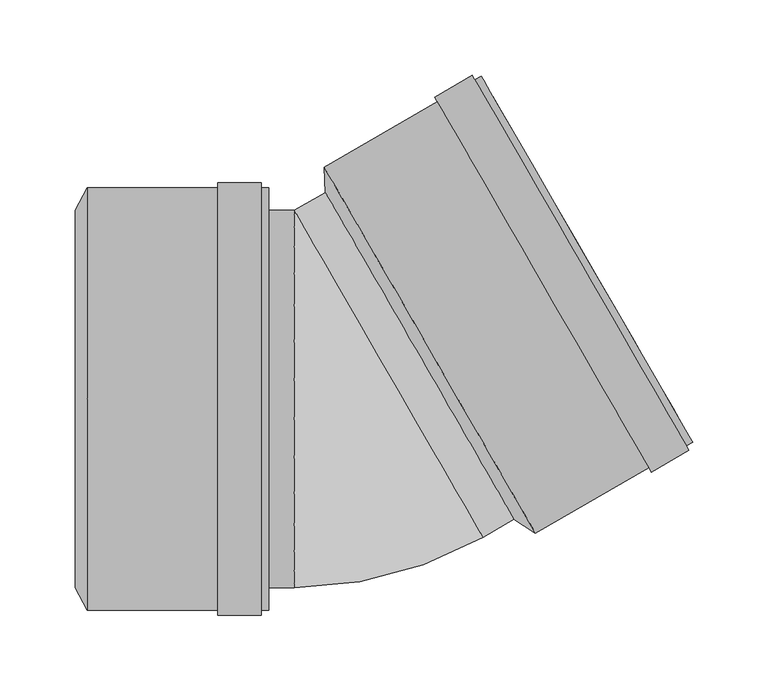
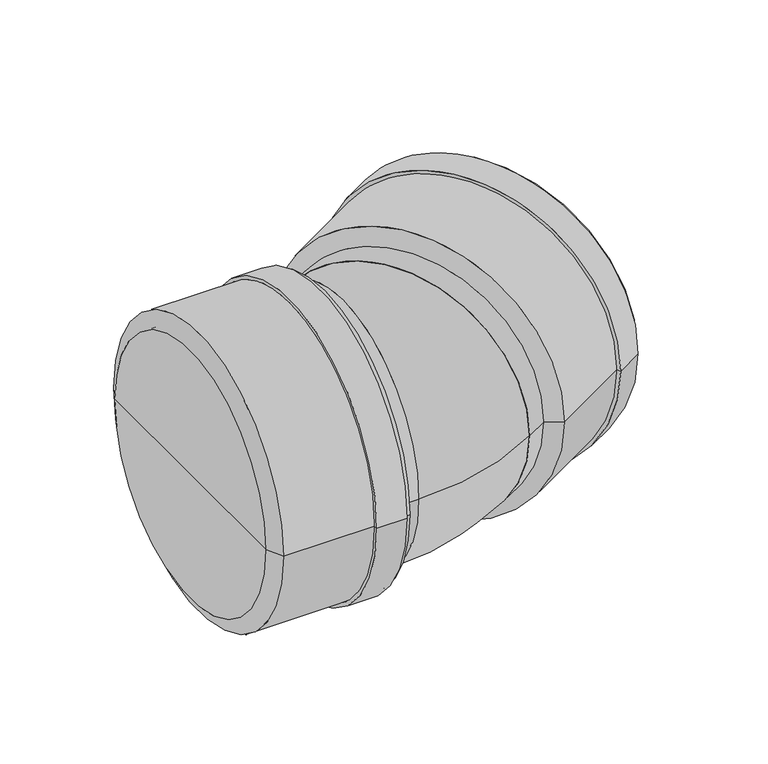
"""IFC4 building model written with IfcOpenShell, lengths in millimetres: pipe fitting geometry, pf_KGB : pf_KGB."""

from ifc_helpers import new_model, si_unit, point, frame, origin, origin_2d, place, context, project, spatial, polyline, circle_curve, ellipse_curve, trimmed, segment, composite_curve, outline, extrude, source, transform, mapped, element, save
from ifc_brep_helpers import plane_surface, cylinder_surface, revolved_surface, advanced_brep


def pipe_fitting_4585e259(model_context):
    return source(origin(), model_context, "Body", "SolidModel", [
        advanced_brep(
        [(112.0366531, -79.6531755, 0.0), (-12.9633469, 136.8531755, 0.0), (-13.8449513, 153.7801591, 0.0), (126.2550487, -88.8801591, 0.0), (49.5366531, 28.6, 0.0), (230.4379048, -28.7301591, 0.0), (90.3379048, 213.9301591, 0.0), (97.8879048, 200.8531755, 0.0), (222.8879048, -15.6531755, 0.0), (86.1809828, 211.5301591, 0.0), (226.2809828, -31.1301591, 0.0), (84.4809828, 214.4746454, 0.0), (227.9809828, -34.0746454, 0.0), (59.6260538, 200.1246454, 0.0), (203.1260538, -48.4246454, 0.0), (61.3260538, 197.1801591, 0.0), (201.4260538, -45.4801591, 0.0), (118.7050487, -75.8031755, 0.0), (-6.2949513, 140.7031755, 0.0), (56.2050487, 32.45, 0.0)],
        [
            (0, 1, circle_curve(frame((49.5366531, 28.6, 0.0), z_axis=(0.8660254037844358, 0.500000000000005, 0.0), x_axis=(-0.500000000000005, 0.8660254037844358, 0.0)), 125.0)),
            (1, 2),
            (2, 3, circle_curve(frame((56.2050487, 32.45, 0.0), z_axis=(-0.8660254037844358, -0.500000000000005, 0.0), x_axis=(-0.500000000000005, 0.8660254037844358, 0.0)), 140.1)),
            (3, 0),
            (1, 0, circle_curve(frame((49.5366531, 28.6, 0.0), z_axis=(0.8660254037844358, 0.500000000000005, 0.0), x_axis=(-0.500000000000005, 0.8660254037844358, 0.0)), 125.0)),
            (3, 2, circle_curve(frame((56.2050487, 32.45, 0.0), z_axis=(-0.8660254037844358, -0.500000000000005, 0.0), x_axis=(-0.500000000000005, 0.8660254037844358, 0.0)), 140.1)),
            (4, 1),
            (0, 4),
            (5, 6, circle_curve(frame((160.3879048, 92.6, 0.0), z_axis=(0.8660254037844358, 0.500000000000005, 0.0), x_axis=(-0.500000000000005, 0.8660254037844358, 0.0)), 140.1)),
            (6, 7),
            (7, 8, circle_curve(frame((160.3879048, 92.6, 0.0), z_axis=(-0.8660254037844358, -0.500000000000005, 0.0), x_axis=(-0.500000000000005, 0.8660254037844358, 0.0)), 125.0)),
            (8, 5),
            (9, 10, circle_curve(frame((156.2309828, 90.2, 0.0), z_axis=(0.8660254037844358, 0.500000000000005, 0.0), x_axis=(-0.500000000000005, 0.8660254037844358, 0.0)), 140.1)),
            (10, 5),
            (5, 6, circle_curve(frame((160.3879048, 92.6, 0.0), z_axis=(-0.8660254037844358, -0.500000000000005, 0.0), x_axis=(-0.500000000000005, 0.8660254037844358, 0.0)), 140.1)),
            (6, 9),
            (11, 12, circle_curve(frame((156.2309828, 90.2, 0.0), z_axis=(0.8660254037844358, 0.500000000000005, 0.0), x_axis=(-0.500000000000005, 0.8660254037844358, 0.0)), 143.5)),
            (12, 10),
            (9, 11),
            (13, 14, circle_curve(frame((131.3760538, 75.85, 0.0), z_axis=(0.8660254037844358, 0.500000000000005, 0.0), x_axis=(-0.500000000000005, 0.8660254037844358, 0.0)), 143.5)),
            (14, 12),
            (11, 13),
            (15, 16, circle_curve(frame((131.3760538, 75.85, 0.0), z_axis=(0.8660254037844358, 0.500000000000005, 0.0), x_axis=(-0.500000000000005, 0.8660254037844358, 0.0)), 140.1)),
            (16, 14),
            (13, 15),
            (8, 7, circle_curve(frame((160.3879048, 92.6, 0.0), z_axis=(-0.8660254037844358, -0.500000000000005, 0.0), x_axis=(-0.500000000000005, 0.8660254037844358, 0.0)), 125.0)),
            (10, 9, circle_curve(frame((156.2309828, 90.2, 0.0), z_axis=(0.8660254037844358, 0.500000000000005, 0.0), x_axis=(-0.500000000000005, 0.8660254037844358, 0.0)), 140.1)),
            (12, 11, circle_curve(frame((156.2309828, 90.2, 0.0), z_axis=(0.8660254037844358, 0.500000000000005, 0.0), x_axis=(-0.500000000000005, 0.8660254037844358, 0.0)), 143.5)),
            (14, 13, circle_curve(frame((131.3760538, 75.85, 0.0), z_axis=(0.8660254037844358, 0.500000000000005, 0.0), x_axis=(-0.500000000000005, 0.8660254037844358, 0.0)), 143.5)),
            (16, 15, circle_curve(frame((131.3760538, 75.85, 0.0), z_axis=(0.8660254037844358, 0.500000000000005, 0.0), x_axis=(-0.500000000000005, 0.8660254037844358, 0.0)), 140.1)),
            (2, 15),
            (16, 3),
            (17, 18, circle_curve(frame((56.2050487, 32.45, 0.0), z_axis=(0.8660254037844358, 0.500000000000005, 0.0), x_axis=(-0.500000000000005, 0.8660254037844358, 0.0)), 125.0)),
            (18, 19),
            (19, 17),
            (18, 17, circle_curve(frame((56.2050487, 32.45, 0.0), z_axis=(0.8660254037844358, 0.500000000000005, 0.0), x_axis=(-0.500000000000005, 0.8660254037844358, 0.0)), 125.0)),
            (7, 18),
            (17, 8),
        ],
        [
            revolved_surface(polyline([(-13.8449513, 153.7801591, 0.0), (-12.9633469, 136.8531755, 0.0)]), (49.5366531, 28.6, 0.0), (-0.8660254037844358, -0.500000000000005, 0.0)),
            plane_surface(frame((49.5366531, 28.6, 0.0), z_axis=(-0.8660254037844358, -0.500000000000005, 0.0), x_axis=(-0.500000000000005, 0.8660254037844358, 0.0))),
            plane_surface(frame((160.3879048, 92.6, 0.0), z_axis=(0.8660254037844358, 0.500000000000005, 0.0), x_axis=(-0.500000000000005, 0.8660254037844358, 0.0))),
            cylinder_surface(frame((49.5366531, 28.6, 0.0), z_axis=(-0.8660254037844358, -0.500000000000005, 0.0), x_axis=(-0.500000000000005, 0.8660254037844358, 0.0)), 140.1),
            plane_surface(frame((156.2309828, 90.2, 0.0), z_axis=(0.8660254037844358, 0.500000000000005, 0.0), x_axis=(-0.500000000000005, 0.8660254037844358, 0.0))),
            cylinder_surface(frame((49.5366531, 28.6, 0.0), z_axis=(-0.8660254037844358, -0.500000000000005, 0.0), x_axis=(-0.500000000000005, 0.8660254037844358, 0.0)), 143.5),
            plane_surface(frame((131.3760538, 75.85, 0.0), z_axis=(-0.8660254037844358, -0.500000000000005, 0.0), x_axis=(-0.500000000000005, 0.8660254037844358, 0.0))),
            plane_surface(frame((56.2050487, 32.45, 0.0), z_axis=(0.8660254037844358, 0.500000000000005, 0.0), x_axis=(-0.500000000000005, 0.8660254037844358, 0.0))),
            revolved_surface(polyline([(-6.294951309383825, 140.70317546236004, 0.0), (97.88790480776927, 200.85317548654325, 0.0)]), (49.5366531, 28.6, 0.0), (-0.8660254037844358, -0.500000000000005, 0.0)),
        ],
        [
            (0, [[1, 2, 3, 4]]),
            (0, [[5, -4, 6, -2]]),
            (1, [[7, -1, 8]]),
            (1, [[-8, -5, -7]]),
            (2, [[9, 10, 11, 12]]),
            (3, [[13, 14, 15, 16]]),
            (4, [[17, 18, -13, 19]]),
            (5, [[20, 21, -17, 22]]),
            (6, [[23, 24, -20, 25]]),
            (2, [[-15, -12, 26, -10]]),
            (3, [[27, -16, -9, -14]]),
            (4, [[28, -19, -27, -18]]),
            (5, [[29, -22, -28, -21]]),
            (6, [[30, -25, -29, -24]]),
            (3, [[-3, 31, -30, 32]]),
            (3, [[-6, -32, -23, -31]]),
            (7, [[33, 34, 35]]),
            (7, [[36, -35, -34]]),
            (8, [[-11, 37, -33, 38]]),
            (8, [[-26, -38, -36, -37]]),
        ],
    ),
        advanced_brep(
        [(-178.7, -125.0, 0.0), (-178.7, 125.0, 0.0), (-171.0, 140.1, 0.0), (-171.0, -140.1, 0.0), (-178.7, 0.0, 0.0), (-50.7, -140.1, 0.0), (-50.7, 140.1, 0.0), (-50.7, 125.0, 0.0), (-50.7, -125.0, 0.0), (-55.5, 140.1, 0.0), (-55.5, -140.1, 0.0), (-55.5, 143.5, 0.0), (-55.5, -143.5, 0.0), (-84.2, 143.5, 0.0), (-84.2, -143.5, 0.0), (-84.2, 140.1, 0.0), (-84.2, -140.1, 0.0), (-171.0, -125.0, 0.0), (-171.0, 125.0, 0.0), (-171.0, 0.0, 0.0)],
        [
            (0, 1, circle_curve(frame((-178.7, 0.0, 0.0), z_axis=(1.0, 0.0, 0.0), x_axis=(0.0, 1.0, 0.0)), 125.0)),
            (1, 2),
            (2, 3, circle_curve(frame((-171.0, 0.0, 0.0), z_axis=(-1.0, 0.0, 0.0), x_axis=(0.0, 1.0, 0.0)), 140.1)),
            (3, 0),
            (1, 0, circle_curve(frame((-178.7, 0.0, 0.0), z_axis=(1.0, 0.0, 0.0), x_axis=(0.0, 1.0, 0.0)), 125.0)),
            (3, 2, circle_curve(frame((-171.0, 0.0, 0.0), z_axis=(-1.0, 0.0, 0.0), x_axis=(0.0, 1.0, 0.0)), 140.1)),
            (4, 1),
            (0, 4),
            (5, 6, circle_curve(frame((-50.7, 0.0, 0.0), z_axis=(1.0, 0.0, 0.0), x_axis=(0.0, 1.0, 0.0)), 140.1)),
            (6, 7),
            (7, 8, circle_curve(frame((-50.7, 0.0, 0.0), z_axis=(-1.0, 0.0, 0.0), x_axis=(0.0, 1.0, 0.0)), 125.0)),
            (8, 5),
            (9, 10, circle_curve(frame((-55.5, 0.0, 0.0), z_axis=(1.0, 0.0, 0.0), x_axis=(0.0, 1.0, 0.0)), 140.1)),
            (10, 5),
            (5, 6, circle_curve(frame((-50.7, 0.0, 0.0), z_axis=(-1.0, 0.0, 0.0), x_axis=(0.0, 1.0, 0.0)), 140.1)),
            (6, 9),
            (11, 12, circle_curve(frame((-55.5, 0.0, 0.0), z_axis=(1.0, 0.0, 0.0), x_axis=(0.0, 1.0, 0.0)), 143.5)),
            (12, 10),
            (9, 11),
            (13, 14, circle_curve(frame((-84.2, 0.0, 0.0), z_axis=(1.0, 0.0, 0.0), x_axis=(0.0, 1.0, 0.0)), 143.5)),
            (14, 12),
            (11, 13),
            (15, 16, circle_curve(frame((-84.2, 0.0, 0.0), z_axis=(1.0, 0.0, 0.0), x_axis=(0.0, 1.0, 0.0)), 140.1)),
            (16, 14),
            (13, 15),
            (8, 7, circle_curve(frame((-50.7, 0.0, 0.0), z_axis=(-1.0, 0.0, 0.0), x_axis=(0.0, 1.0, 0.0)), 125.0)),
            (10, 9, circle_curve(frame((-55.5, 0.0, 0.0), z_axis=(1.0, 0.0, 0.0), x_axis=(0.0, 1.0, 0.0)), 140.1)),
            (12, 11, circle_curve(frame((-55.5, 0.0, 0.0), z_axis=(1.0, 0.0, 0.0), x_axis=(0.0, 1.0, 0.0)), 143.5)),
            (14, 13, circle_curve(frame((-84.2, 0.0, 0.0), z_axis=(1.0, 0.0, 0.0), x_axis=(0.0, 1.0, 0.0)), 143.5)),
            (16, 15, circle_curve(frame((-84.2, 0.0, 0.0), z_axis=(1.0, 0.0, 0.0), x_axis=(0.0, 1.0, 0.0)), 140.1)),
            (2, 15),
            (16, 3),
            (17, 18, circle_curve(frame((-171.0, 0.0, 0.0), z_axis=(1.0, 0.0, 0.0), x_axis=(0.0, 1.0, 0.0)), 125.0)),
            (18, 19),
            (19, 17),
            (18, 17, circle_curve(frame((-171.0, 0.0, 0.0), z_axis=(1.0, 0.0, 0.0), x_axis=(0.0, 1.0, 0.0)), 125.0)),
            (7, 18),
            (17, 8),
        ],
        [
            revolved_surface(polyline([(-171.0, 140.1, 0.0), (-178.7, 125.0, 0.0)]), (-178.7, 0.0, 0.0), (-1.0, 0.0, 0.0)),
            plane_surface(frame((-178.7, 0.0, 0.0), z_axis=(-1.0, 0.0, 0.0), x_axis=(0.0, 1.0, 0.0))),
            plane_surface(frame((-50.7, 0.0, 0.0), z_axis=(1.0, 0.0, 0.0), x_axis=(0.0, 1.0, 0.0))),
            cylinder_surface(frame((-178.7, 0.0, 0.0), z_axis=(-1.0, 0.0, 0.0), x_axis=(0.0, 1.0, 0.0)), 140.1),
            plane_surface(frame((-55.5, 0.0, 0.0), z_axis=(1.0, 0.0, 0.0), x_axis=(0.0, 1.0, 0.0))),
            cylinder_surface(frame((-178.7, 0.0, 0.0), z_axis=(-1.0, 0.0, 0.0), x_axis=(0.0, 1.0, 0.0)), 143.5),
            plane_surface(frame((-84.2, 0.0, 0.0), z_axis=(-1.0, 0.0, 0.0), x_axis=(0.0, 1.0, 0.0))),
            plane_surface(frame((-171.0, 0.0, 0.0), z_axis=(1.0, 0.0, 0.0), x_axis=(0.0, 1.0, 0.0))),
            revolved_surface(polyline([(-171.0, 125.0, 0.0), (-50.7, 125.0, 0.0)]), (-178.7, 0.0, 0.0), (-1.0, 0.0, 0.0)),
        ],
        [
            (0, [[1, 2, 3, 4]]),
            (0, [[5, -4, 6, -2]]),
            (1, [[7, -1, 8]]),
            (1, [[-8, -5, -7]]),
            (2, [[9, 10, 11, 12]]),
            (3, [[13, 14, 15, 16]]),
            (4, [[17, 18, -13, 19]]),
            (5, [[20, 21, -17, 22]]),
            (6, [[23, 24, -20, 25]]),
            (2, [[-15, -12, 26, -10]]),
            (3, [[27, -16, -9, -14]]),
            (4, [[28, -19, -27, -18]]),
            (5, [[29, -22, -28, -21]]),
            (6, [[30, -25, -29, -24]]),
            (3, [[-3, 31, -30, 32]]),
            (3, [[-6, -32, -23, -31]]),
            (7, [[33, 34, 35]]),
            (7, [[36, -35, -34]]),
            (8, [[-11, 37, -33, 38]]),
            (8, [[-26, -38, -36, -37]]),
        ],
    ),
        extrude(outline(composite_curve([segment(trimmed(circle_curve(origin_2d(), 125.0), [point((0.0, -125.0))], [point((0.0, 124.9999999))], False, "CARTESIAN"), True, "CONTINUOUS"), segment(trimmed(circle_curve(origin_2d(), 125.0), [point((0.0, 124.9999999))], [point((0.0, -125.0))], False, "CARTESIAN"), True, "CONTINUOUS")], self_intersect=False)), frame((29.0063509, 16.7468245, 0.0), z_axis=(0.8660254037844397, 0.49999999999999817, 0.0), x_axis=(0.0, 0.0, 1.0)), (0.0, 0.0, 1.0), 23.7063509),
        extrude(outline(composite_curve([segment(trimmed(circle_curve(origin_2d(), 125.0), [point((-125.0, 0.0))], [point((125.0, 0.0))], False, "CARTESIAN"), True, "CONTINUOUS"), segment(trimmed(circle_curve(origin_2d(), 125.0), [point((125.0, 0.0))], [point((-125.0, 0.0))], False, "CARTESIAN"), True, "CONTINUOUS")], self_intersect=False)), frame((-171.0, 0.0, 0.0), z_axis=(1.0, 0.0, 0.0), x_axis=(0.0, 1.0, 0.0)), (0.0, 0.0, 1.0), 137.5063509),
        advanced_brep(
        [(-33.4936491, -125.0, 0.0), (-33.4936491, 125.0, 0.0), (91.5063509, -91.5063509, 0.0)],
        [
            (0, 1, circle_curve(frame((-33.4936491, 0.0, 0.0), z_axis=(-1.0, 0.0, 0.0), x_axis=(0.0, 1.0, 0.0)), 125.0)),
            (1, 0, circle_curve(frame((-33.4936491, 0.0, 0.0), z_axis=(-1.0, 0.0, 0.0), x_axis=(0.0, 1.0, 0.0)), 125.0)),
            (2, 1, circle_curve(frame((29.0063509, 16.7468245, 0.0), z_axis=(0.8660254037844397, 0.49999999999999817, 0.0), x_axis=(-0.49999999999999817, 0.8660254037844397, 0.0)), 125.0)),
            (1, 2, circle_curve(frame((29.0063509, 16.7468245, 0.0), z_axis=(0.8660254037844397, 0.49999999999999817, 0.0), x_axis=(-0.49999999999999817, 0.8660254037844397, 0.0)), 125.0)),
            (2, 0, circle_curve(frame((-33.4936491, 125.0, 0.0), z_axis=(0.0, 0.0, -1.0), x_axis=(0.0, -1.0, 0.0)), 250.0)),
        ],
        [
            plane_surface(frame((-33.4936491, 125.0, -14.8), z_axis=(-1.0, 0.0, 0.0), x_axis=(0.0, -1.0, 0.0))),
            plane_surface(frame((-33.4936491, 125.0, -14.8), z_axis=(0.8660254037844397, 0.4999999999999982, 0.0), x_axis=(0.4999999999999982, -0.8660254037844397, 0.0))),
            revolved_surface(trimmed(ellipse_curve(frame((-33.4936491, 0.0, 0.0), z_axis=(1.0, 0.0, 0.0), x_axis=(0.0, 1.0, 0.0)), 125.0, 125.0), [point((-33.4936491, -125.0, 0.0))], [point((-33.4936491, 125.0, 0.0))], True, "CARTESIAN"), (-33.4936491, 125.0, -14.8), (0.0, 0.0, -1.0)),
            revolved_surface(trimmed(ellipse_curve(frame((-33.4936491, 0.0, 0.0), z_axis=(1.0, 0.0, 0.0), x_axis=(0.0, 1.0, 0.0)), 125.0, 125.0), [point((-33.4936491, 125.0, 0.0))], [point((-33.4936491, -125.0, 0.0))], True, "CARTESIAN"), (-33.4936491, 125.0, -14.8), (0.0, 0.0, -1.0)),
        ],
        [
            (0, [[1, 2]]),
            (1, [[3, 4]]),
            (2, [[5, -2, -3]]),
            (3, [[-1, -5, -4]]),
        ],
    ),
    ])


if __name__ == "__main__":
    model = new_model("IFC4")
    model_context = context("Model", 3, world=origin())
    ifc_project = project(units=[si_unit("LENGTHUNIT", "METRE", prefix="MILLI")], contexts=[model_context])
    site = spatial("IfcSite", under=ifc_project)
    building = spatial("IfcBuilding", under=site)
    placement = place(None, origin())
    pipe_fitting_shape = pipe_fitting_4585e259(model_context)
    element("IfcPipeFitting", 1, ObjectType="pf_KGB : pf_KGB", at=placement, inside=building, context=model_context, shape_type="MappedRepresentation", body=[
        mapped(pipe_fitting_shape, transform((0.0, 0.0, 0.0), x_axis=(1.0, 0.0, 0.0), y_axis=(0.0, 1.0, 0.0), z_axis=(0.0, 0.0, 1.0))),
    ])
    save(model, "model.ifc")
